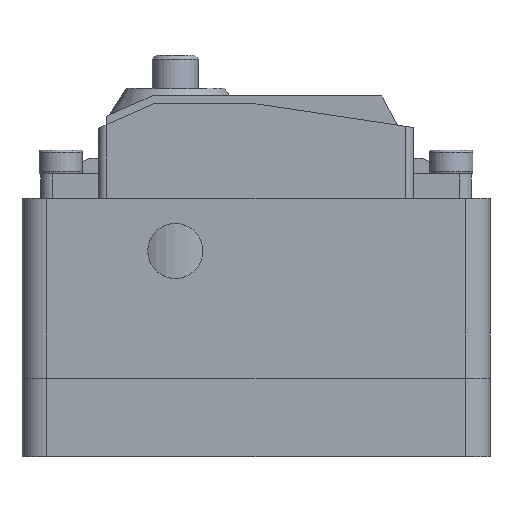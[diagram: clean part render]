
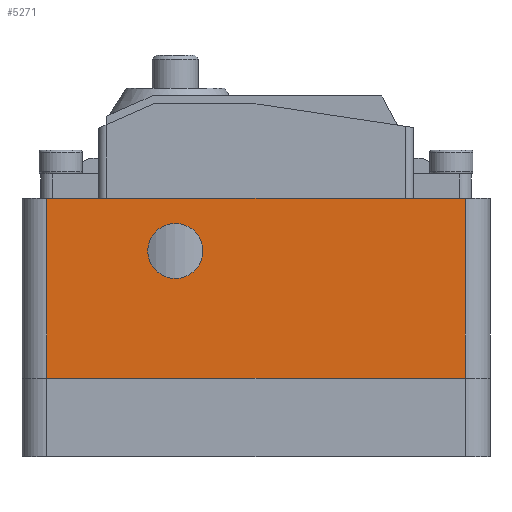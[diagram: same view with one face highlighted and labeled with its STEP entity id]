
A CAD part, left-side view. The second image highlights one B-rep face of the part: STEP entity #5271.
In plain terms, the highlighted planar face has unit normal (-1, 0, 0).
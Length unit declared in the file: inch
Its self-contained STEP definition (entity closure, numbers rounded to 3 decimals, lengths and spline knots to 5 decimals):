
#184=FACE_BOUND('',#1966,.T.);
#639=LINE('',#8913,#1104);
#643=LINE('',#8922,#1108);
#655=LINE('',#8969,#1120);
#659=LINE('',#8980,#1124);
#1104=VECTOR('',#7357,0.3937);
#1108=VECTOR('',#7365,0.3937);
#1120=VECTOR('',#7407,0.3937);
#1124=VECTOR('',#7421,0.3937);
#1583=FACE_OUTER_BOUND('',#1965,.T.);
#1965=EDGE_LOOP('',(#4745,#4746,#4747,#4748));
#1966=EDGE_LOOP('',(#4749));
#2186=CIRCLE('',#5960,0.1378);
#2579=VERTEX_POINT('',#8906);
#2582=VERTEX_POINT('',#8911);
#2585=VERTEX_POINT('',#8921);
#2605=VERTEX_POINT('',#8968);
#2648=VERTEX_POINT('',#9095);
#3238=EDGE_CURVE('',#2582,#2579,#639,.T.);
#3242=EDGE_CURVE('',#2579,#2585,#643,.T.);
#3266=EDGE_CURVE('',#2585,#2605,#655,.T.);
#3272=EDGE_CURVE('',#2605,#2582,#659,.T.);
#3331=EDGE_CURVE('',#2648,#2648,#2186,.T.);
#4745=ORIENTED_EDGE('',*,*,#3238,.F.);
#4746=ORIENTED_EDGE('',*,*,#3272,.F.);
#4747=ORIENTED_EDGE('',*,*,#3266,.F.);
#4748=ORIENTED_EDGE('',*,*,#3242,.F.);
#4749=ORIENTED_EDGE('',*,*,#3331,.T.);
#4957=PLANE('',#5984);
#5271=ADVANCED_FACE('',(#1583,#184),#4957,.T.);
#5960=AXIS2_PLACEMENT_3D('',#9096,#7529,#7530);
#5984=AXIS2_PLACEMENT_3D('',#9138,#7591,#7592);
#7357=DIRECTION('',(0.,0.,-1.));
#7365=DIRECTION('',(0.,1.,0.));
#7407=DIRECTION('',(0.,0.,1.));
#7421=DIRECTION('',(0.,-1.,0.));
#7529=DIRECTION('center_axis',(1.,0.,0.));
#7530=DIRECTION('ref_axis',(0.,-1.,0.));
#7591=DIRECTION('center_axis',(-1.,0.,0.));
#7592=DIRECTION('ref_axis',(0.,1.,0.));
#8906=CARTESIAN_POINT('',(-0.45714,-1.04552,0.20243));
#8911=CARTESIAN_POINT('',(-0.45714,-1.04552,1.10236));
#8913=CARTESIAN_POINT('',(-0.45714,-1.04552,1.10236));
#8921=CARTESIAN_POINT('',(-0.45714,1.04552,0.20243));
#8922=CARTESIAN_POINT('',(-0.45714,-0.23957,0.20243));
#8968=CARTESIAN_POINT('',(-0.45714,1.04552,1.10236));
#8969=CARTESIAN_POINT('',(-0.45714,1.04552,1.10236));
#8980=CARTESIAN_POINT('',(-0.45714,-0.44134,1.10236));
#9095=CARTESIAN_POINT('',(-0.45714,0.54134,0.83907));
#9096=CARTESIAN_POINT('Origin',(-0.45714,0.40354,0.83907));
#9138=CARTESIAN_POINT('Origin',(-0.45714,-0.88268,1.10236));
